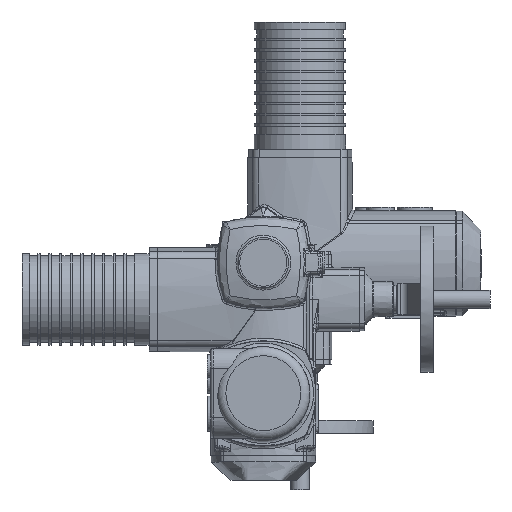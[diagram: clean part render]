
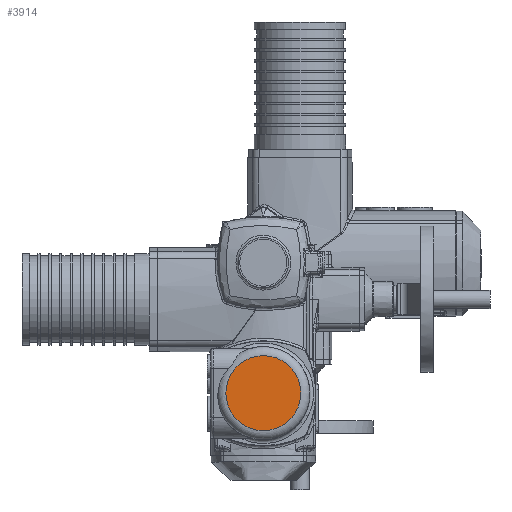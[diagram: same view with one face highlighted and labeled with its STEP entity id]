
A CAD part, top view. The second image highlights one B-rep face of the part: STEP entity #3914.
In plain terms, the highlighted planar face has unit normal (0, 0, 1) as drawn and (0, 0, -1) by its records, which use the part's own axes.
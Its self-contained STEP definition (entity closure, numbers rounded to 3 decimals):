
#3914 = ADVANCED_FACE( '', ( #8239 ), #8240, .F. );
#8239 = FACE_OUTER_BOUND( '', #18731, .T. );
#8240 = PLANE( '', #18732 );
#18731 = EDGE_LOOP( '', ( #32798 ) );
#18732 = AXIS2_PLACEMENT_3D( '', #32799, #32800, #32801 );
#32798 = ORIENTED_EDGE( '', *, *, #38853, .T. );
#32799 = CARTESIAN_POINT( '', ( 143., 0., -209. ) );
#32800 = DIRECTION( '', ( 0., 0., 1. ) );
#32801 = DIRECTION( '', ( 1., 0., 0. ) );
#38853 = EDGE_CURVE( '', #45526, #45526, #45527, .F. );
#45526 = VERTEX_POINT( '', #68733 );
#45527 = CIRCLE( '', #68734, 41. );
#68733 = CARTESIAN_POINT( '', ( 184., 0., -209. ) );
#68734 = AXIS2_PLACEMENT_3D( '', #72594, #72595, #72596 );
#72594 = CARTESIAN_POINT( '', ( 143., 0., -209. ) );
#72595 = DIRECTION( '', ( 0., 0., 1. ) );
#72596 = DIRECTION( '', ( 1., 0., 0. ) );
